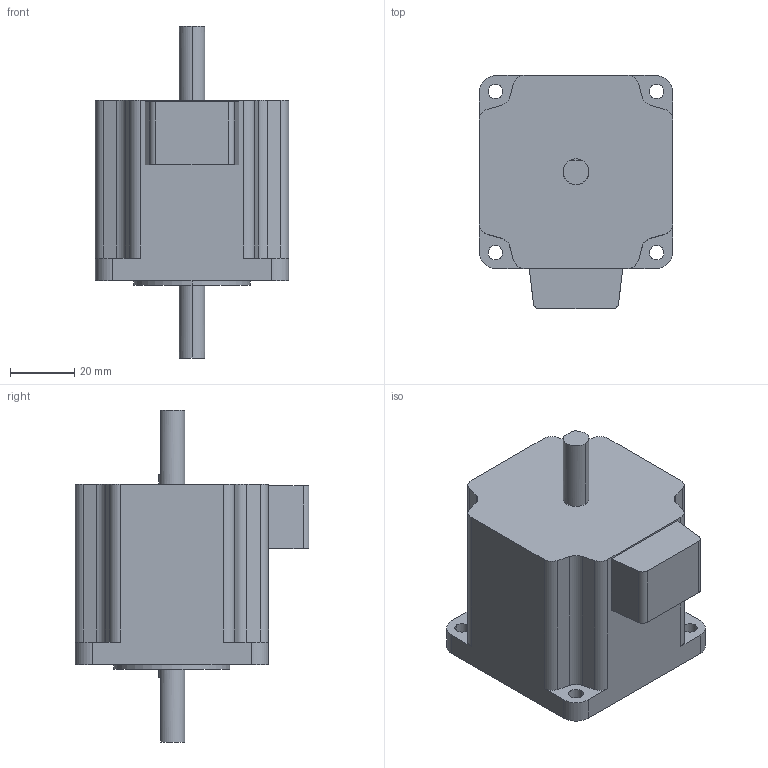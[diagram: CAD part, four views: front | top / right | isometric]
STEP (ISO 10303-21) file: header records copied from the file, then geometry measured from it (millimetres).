
FILE_DESCRIPTION (( 'STEP AP203' ), '1' );
FILE_NAME ('SWP_210315_8134.STEP', '2021-03-15T07:21:56', ( 'Windows ユーザー' ), ( '' ), 'SwSTEP 2.0', 'SolidWorks 2017', '' );
FILE_SCHEMA (( 'CONFIG_CONTROL_DESIGN' ));
Length unit declared in the file: millimetre
Products named in the file (1): SWP_210315_8134
Bounding box: 60 x 72.5 x 103 mm (x, y, z)
Volume: 189841.6 mm3; surface area: 22751 mm2
Topology: 1 solids, 1 shells, 102 faces, 270 edges, 180 vertices
Faces by surface type: plane 70, cylinder 32
Entity records: 3255 total; most frequent: CARTESIAN_POINT 553, DIRECTION 544, ORIENTED_EDGE 540, EDGE_CURVE 270, LINE 202, VECTOR 202, VERTEX_POINT 180, AXIS2_PLACEMENT_3D 171
